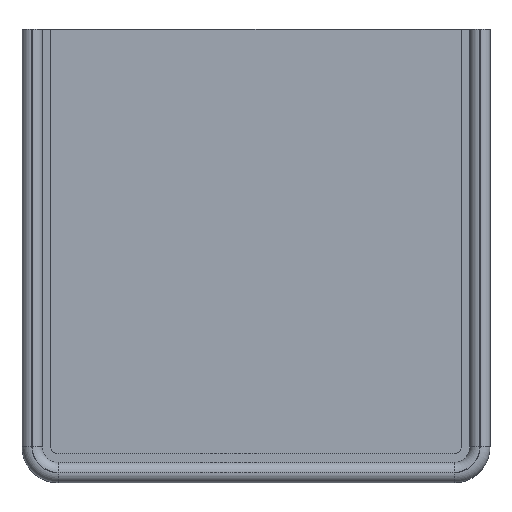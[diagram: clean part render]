
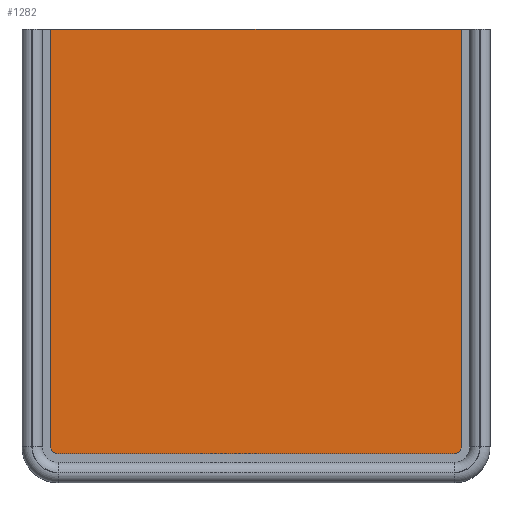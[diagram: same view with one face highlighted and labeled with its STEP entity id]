
A CAD part, top view. The second image highlights one B-rep face of the part: STEP entity #1282.
In plain terms, the highlighted planar face has unit normal (0, 0, 1).
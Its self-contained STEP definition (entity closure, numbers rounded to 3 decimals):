
#262 = VERTEX_POINT('',#263);
#263 = CARTESIAN_POINT('',(8.,126.,2.));
#269 = EDGE_CURVE('',#262,#270,#272,.T.);
#270 = VERTEX_POINT('',#271);
#271 = CARTESIAN_POINT('',(122.,126.,2.));
#272 = LINE('',#273,#274);
#273 = CARTESIAN_POINT('',(8.,126.,2.));
#274 = VECTOR('',#275,1.);
#275 = DIRECTION('',(1.,0.,0.));
#1178 = VERTEX_POINT('',#1179);
#1179 = CARTESIAN_POINT('',(122.,10.,2.));
#1187 = EDGE_CURVE('',#270,#1178,#1188,.T.);
#1188 = LINE('',#1189,#1190);
#1189 = CARTESIAN_POINT('',(122.,126.,2.));
#1190 = VECTOR('',#1191,1.);
#1191 = DIRECTION('',(0.,-1.,0.));
#1282 = ADVANCED_FACE('',(#1283),#1319,.T.);
#1283 = FACE_BOUND('',#1284,.F.);
#1284 = EDGE_LOOP('',(#1285,#1293,#1294,#1295,#1304,#1312));
#1285 = ORIENTED_EDGE('',*,*,#1286,.F.);
#1286 = EDGE_CURVE('',#262,#1287,#1289,.T.);
#1287 = VERTEX_POINT('',#1288);
#1288 = CARTESIAN_POINT('',(8.,10.,2.));
#1289 = LINE('',#1290,#1291);
#1290 = CARTESIAN_POINT('',(8.,126.,2.));
#1291 = VECTOR('',#1292,1.);
#1292 = DIRECTION('',(0.,-1.,0.));
#1293 = ORIENTED_EDGE('',*,*,#269,.T.);
#1294 = ORIENTED_EDGE('',*,*,#1187,.T.);
#1295 = ORIENTED_EDGE('',*,*,#1296,.F.);
#1296 = EDGE_CURVE('',#1297,#1178,#1299,.T.);
#1297 = VERTEX_POINT('',#1298);
#1298 = CARTESIAN_POINT('',(120.,8.,2.));
#1299 = CIRCLE('',#1300,2.);
#1300 = AXIS2_PLACEMENT_3D('',#1301,#1302,#1303);
#1301 = CARTESIAN_POINT('',(120.,10.,2.));
#1302 = DIRECTION('',(0.,0.,1.));
#1303 = DIRECTION('',(1.,0.,0.));
#1304 = ORIENTED_EDGE('',*,*,#1305,.T.);
#1305 = EDGE_CURVE('',#1297,#1306,#1308,.T.);
#1306 = VERTEX_POINT('',#1307);
#1307 = CARTESIAN_POINT('',(10.,8.,2.));
#1308 = LINE('',#1309,#1310);
#1309 = CARTESIAN_POINT('',(120.,8.,2.));
#1310 = VECTOR('',#1311,1.);
#1311 = DIRECTION('',(-1.,0.,0.));
#1312 = ORIENTED_EDGE('',*,*,#1313,.F.);
#1313 = EDGE_CURVE('',#1287,#1306,#1314,.T.);
#1314 = CIRCLE('',#1315,2.);
#1315 = AXIS2_PLACEMENT_3D('',#1316,#1317,#1318);
#1316 = CARTESIAN_POINT('',(10.,10.,2.));
#1317 = DIRECTION('',(0.,0.,1.));
#1318 = DIRECTION('',(1.,0.,0.));
#1319 = PLANE('',#1320);
#1320 = AXIS2_PLACEMENT_3D('',#1321,#1322,#1323);
#1321 = CARTESIAN_POINT('',(65.,67.23,2.));
#1322 = DIRECTION('',(0.,0.,1.));
#1323 = DIRECTION('',(1.,0.,0.));
